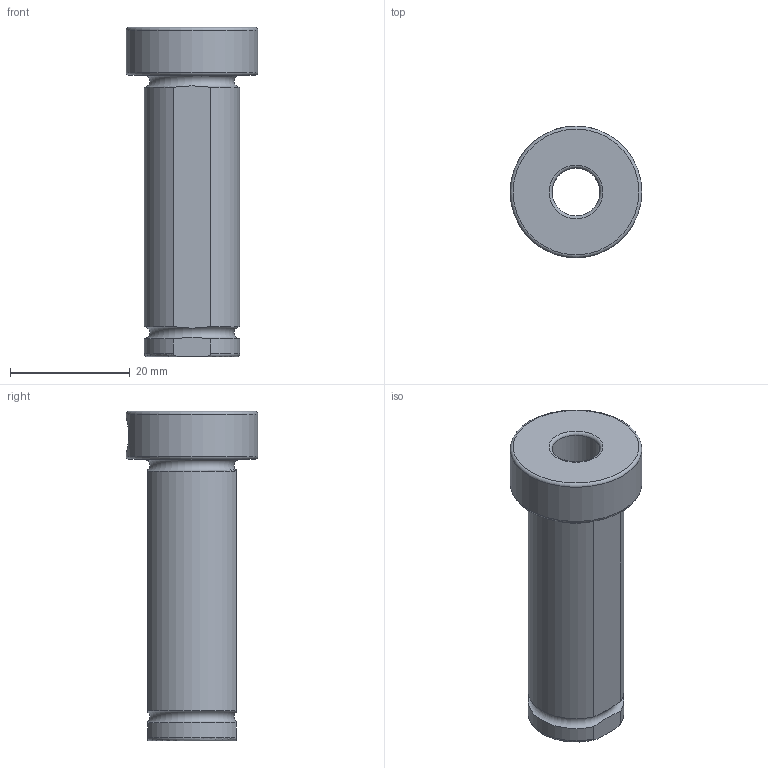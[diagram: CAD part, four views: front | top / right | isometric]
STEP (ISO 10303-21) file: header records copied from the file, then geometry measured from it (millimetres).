
FILE_DESCRIPTION(/* description */ (''),/* implementation_level */ '2;1');
FILE_NAME(/* name */ '',/* time_stamp */ '2026-01-13T09:11:10+03:00',/* author */ ('User'),/* organization */ (''),/* preprocessor_version */ 'ST-DEVELOPER v19.2',/* originating_system */ 'Autodesk Inventor 2024',/* authorisation */ '');
FILE_SCHEMA (('AUTOMOTIVE_DESIGN { 1 0 10303 214 3 1 1 }'));
Length unit declared in the file: millimetre
Products named in the file (1): Втулка переходная 
D40-d6
Bounding box: 22 x 22 x 55 mm (x, y, z)
Volume: 8841.6 mm3; surface area: 5284.1 mm2
Topology: 1 solids, 1 shells, 47 faces, 113 edges, 75 vertices
Faces by surface type: plane 26, cylinder 11, torus 8, bspline 1, cone 1
Full cylindrical faces by diameter (mm): 4.8 x2, 5 x1, 8 x1, 9 x1, 22 x1
Entity records: 1654 total; most frequent: CARTESIAN_POINT 450, DIRECTION 234, ORIENTED_EDGE 226, EDGE_CURVE 113, AXIS2_PLACEMENT_3D 89, VERTEX_POINT 75, EDGE_LOOP 56, LINE 56
